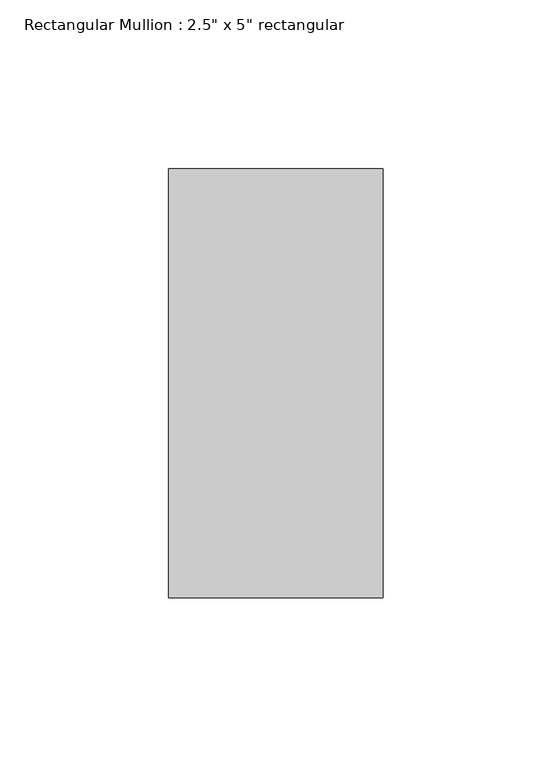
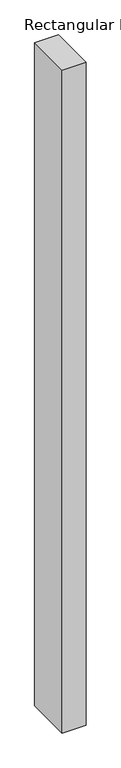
"""IFC4 building model written with IfcOpenShell, lengths in millimetres: member geometry."""

from ifc_helpers import new_model, si_unit, frame, origin, place, context, project, spatial, polyline, outline, extrude, source, transform, mapped, element, save


def member_b50b2218(model_context):
    return source(origin(), model_context, "Body", "SweptSolid", [
        extrude(outline(polyline([(31.75, 63.5), (31.75, -63.5), (-31.75, -63.5), (-31.75, 63.5), (31.75, 63.5)])), frame((0.0, 0.0, -1873.25), z_axis=(0.0, 0.0, 1.0), x_axis=(1.0, 0.0, 0.0)), (0.0, 0.0, 1.0), 1873.25),
    ])


if __name__ == "__main__":
    model = new_model("IFC4")
    model_context = context("Model", 3, world=origin())
    ifc_project = project(units=[si_unit("LENGTHUNIT", "METRE", prefix="MILLI")], contexts=[model_context])
    site = spatial("IfcSite", under=ifc_project)
    building = spatial("IfcBuilding", under=site)
    placement = place(None, origin())
    member_shape = member_b50b2218(model_context)
    element("IfcMember", 1, ObjectType="Rectangular Mullion : 2.5\" x 5\" rectangular", at=placement, inside=building, context=model_context, shape_type="MappedRepresentation", body=[
        mapped(member_shape, transform((0.0, 0.0, 0.0), x_axis=(1.0, 0.0, 0.0), y_axis=(0.0, 1.0, 0.0), z_axis=(0.0, 0.0, 1.0))),
    ])
    save(model, "model.ifc")
